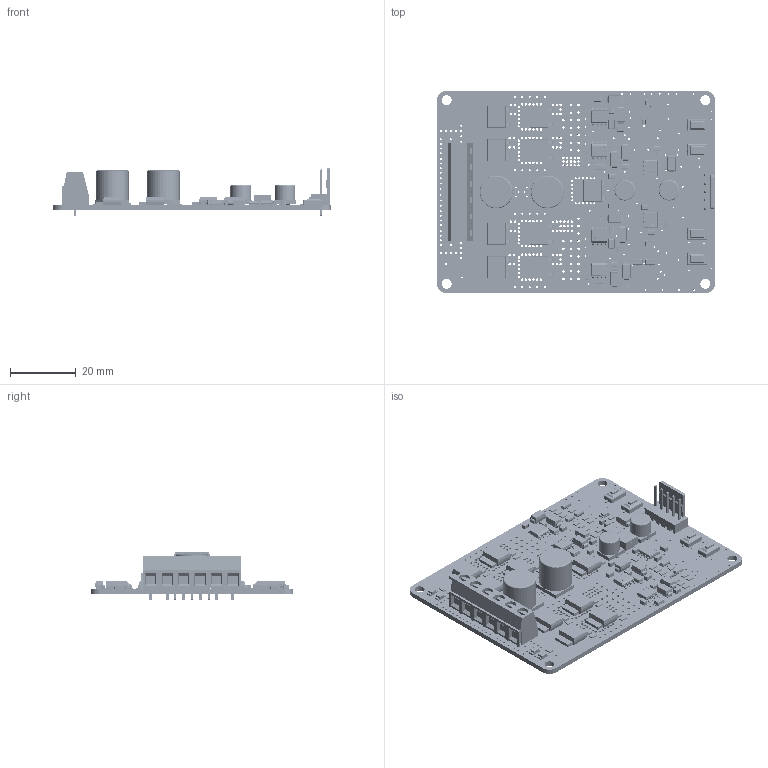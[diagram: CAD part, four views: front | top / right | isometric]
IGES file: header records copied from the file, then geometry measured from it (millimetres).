
Start section: SolidWorks IGES file using analytic representation for surfaces
Global section: file name: D:\Cytron\Technical\MDD10A\Mechanical Design\MDD10A REV2 CAD\MDD10A REV2.IGS; native system: SolidWorks 2015; preprocessor: SolidWorks 2015; author: DIANMIAO; date: 180814.181110; units: millimetre
Bounding box: 84.58 x 61.72 x 14.9 mm (x, y, z)
Surface area: 19697.5 mm2 (no closed solid volume)
Topology: 0 solids, 0 shells, 5751 faces, 46203 edges, 45875 vertices
Faces by surface type: bspline 3748, revolution 2003
